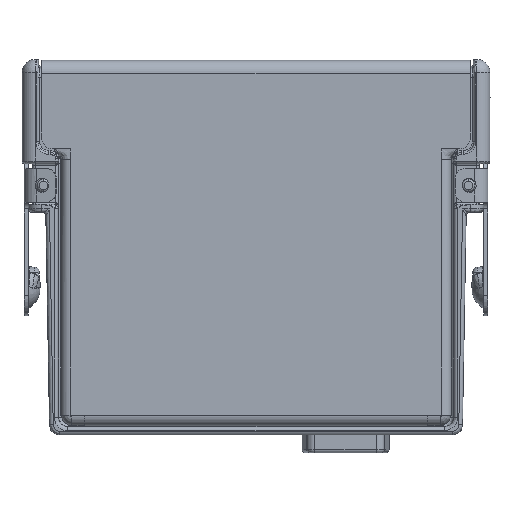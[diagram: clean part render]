
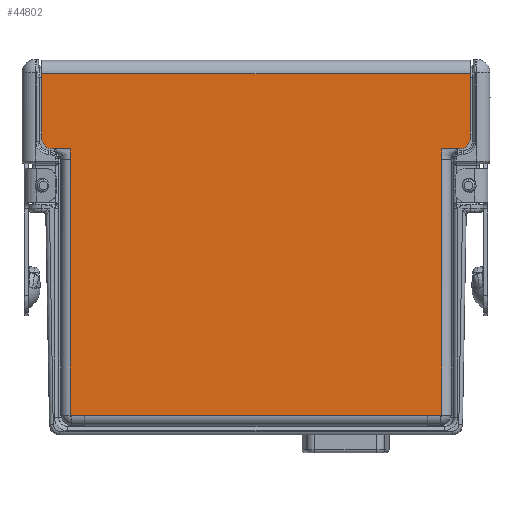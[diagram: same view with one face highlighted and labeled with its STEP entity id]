
A CAD part, left-side view. The second image highlights one B-rep face of the part: STEP entity #44802.
In plain terms, the highlighted planar face has unit normal (-1, 0, 0).
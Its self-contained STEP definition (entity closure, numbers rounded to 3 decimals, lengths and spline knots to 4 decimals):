
#15058=DIRECTION('',(0.,-1.,0.));
#15059=VECTOR('',#15058,2.543);
#15060=CARTESIAN_POINT('',(-0.4475,1.2715,0.146));
#15061=LINE('',#15060,#15059);
#15070=DIRECTION('',(0.,0.,-1.));
#15071=VECTOR('',#15070,0.476);
#15072=CARTESIAN_POINT('',(-0.4475,1.5895,2.676));
#15073=LINE('',#15072,#15071);
#15074=DIRECTION('',(0.,0.,1.));
#15075=VECTOR('',#15074,0.476);
#15076=CARTESIAN_POINT('',(-0.4475,-1.5895,2.2));
#15077=LINE('',#15076,#15075);
#15078=DIRECTION('',(0.,0.,1.));
#15079=VECTOR('',#15078,0.079);
#15080=CARTESIAN_POINT('',(-0.4475,-1.3765,2.041));
#15081=LINE('',#15080,#15079);
#15082=DIRECTION('',(0.,-1.,0.));
#15083=VECTOR('',#15082,0.105);
#15084=CARTESIAN_POINT('',(-0.4475,-1.2715,0.146));
#15085=LINE('',#15084,#15083);
#15086=DIRECTION('',(0.,-1.,0.));
#15087=VECTOR('',#15086,0.105);
#15088=CARTESIAN_POINT('',(-0.4475,1.3765,0.146));
#15089=LINE('',#15088,#15087);
#15090=DIRECTION('',(0.,0.,1.));
#15091=VECTOR('',#15090,0.079);
#15092=CARTESIAN_POINT('',(-0.4475,1.3765,2.041));
#15093=LINE('',#15092,#15091);
#15107=CARTESIAN_POINT('',(-0.4475,1.5095,2.2));
#15108=DIRECTION('',(-1.,0.,0.));
#15109=DIRECTION('',(0.,1.,0.));
#15110=AXIS2_PLACEMENT_3D('',#15107,#15108,#15109);
#15112=DIRECTION('',(0.,-1.,0.));
#15113=VECTOR('',#15112,0.133);
#15114=CARTESIAN_POINT('',(-0.4475,1.5095,2.12));
#15115=LINE('',#15114,#15113);
#15132=DIRECTION('',(0.,0.,1.));
#15133=VECTOR('',#15132,1.895);
#15134=CARTESIAN_POINT('',(-0.4475,1.3765,0.146));
#15135=LINE('',#15134,#15133);
#15587=DIRECTION('',(0.,0.,1.));
#15588=VECTOR('',#15587,1.895);
#15589=CARTESIAN_POINT('',(-0.4475,-1.3765,0.146));
#15590=LINE('',#15589,#15588);
#15622=DIRECTION('',(0.,-1.,0.));
#15623=VECTOR('',#15622,0.133);
#15624=CARTESIAN_POINT('',(-0.4475,-1.3765,2.12));
#15625=LINE('',#15624,#15623);
#15639=CARTESIAN_POINT('',(-0.4475,-1.5095,2.2));
#15640=DIRECTION('',(-1.,0.,0.));
#15641=DIRECTION('',(0.,0.,-1.));
#15642=AXIS2_PLACEMENT_3D('',#15639,#15640,#15641);
#15661=DIRECTION('',(0.,-1.,0.));
#15662=VECTOR('',#15661,3.179);
#15663=CARTESIAN_POINT('',(-0.4475,1.5895,2.676));
#15664=LINE('',#15663,#15662);
#24278=CARTESIAN_POINT('',(-0.4475,-1.5895,2.676));
#24279=VERTEX_POINT('',#24278);
#24280=CARTESIAN_POINT('',(-0.4475,1.5895,2.676));
#24281=VERTEX_POINT('',#24280);
#24310=CARTESIAN_POINT('',(-0.4475,1.2715,0.146));
#24311=CARTESIAN_POINT('',(-0.4475,-1.2715,0.146));
#24312=VERTEX_POINT('',#24310);
#24313=VERTEX_POINT('',#24311);
#24322=CARTESIAN_POINT('',(-0.4475,-1.3765,0.146));
#24323=VERTEX_POINT('',#24322);
#24334=CARTESIAN_POINT('',(-0.4475,1.3765,0.146));
#24335=VERTEX_POINT('',#24334);
#24383=CARTESIAN_POINT('',(-0.4475,1.5095,2.12));
#24385=VERTEX_POINT('',#24383);
#24388=CARTESIAN_POINT('',(-0.4475,1.5895,2.2));
#24389=VERTEX_POINT('',#24388);
#24391=CARTESIAN_POINT('',(-0.4475,-1.5895,2.2));
#24393=VERTEX_POINT('',#24391);
#24396=CARTESIAN_POINT('',(-0.4475,-1.5095,2.12));
#24397=VERTEX_POINT('',#24396);
#24410=CARTESIAN_POINT('',(-0.4475,-1.3765,2.041));
#24411=VERTEX_POINT('',#24410);
#24414=CARTESIAN_POINT('',(-0.4475,-1.3765,2.12));
#24415=VERTEX_POINT('',#24414);
#24422=CARTESIAN_POINT('',(-0.4475,1.3765,2.041));
#24423=CARTESIAN_POINT('',(-0.4475,1.3765,2.12));
#24424=VERTEX_POINT('',#24422);
#24425=VERTEX_POINT('',#24423);
#44769=CARTESIAN_POINT('',(-0.4475,0.,1.421));
#44770=DIRECTION('',(-1.,0.,0.));
#44771=DIRECTION('',(0.,1.,0.));
#44772=AXIS2_PLACEMENT_3D('',#44769,#44770,#44771);
#44773=PLANE('',#44772);
#44775=ORIENTED_EDGE('',*,*,#44774,.F.);
#44777=ORIENTED_EDGE('',*,*,#44776,.F.);
#44779=ORIENTED_EDGE('',*,*,#44778,.T.);
#44781=ORIENTED_EDGE('',*,*,#44780,.F.);
#44783=ORIENTED_EDGE('',*,*,#44782,.F.);
#44785=ORIENTED_EDGE('',*,*,#44784,.F.);
#44787=ORIENTED_EDGE('',*,*,#44786,.F.);
#44789=ORIENTED_EDGE('',*,*,#44788,.F.);
#44790=ORIENTED_EDGE('',*,*,#44759,.F.);
#44791=ORIENTED_EDGE('',*,*,#44735,.F.);
#44793=ORIENTED_EDGE('',*,*,#44792,.F.);
#44795=ORIENTED_EDGE('',*,*,#44794,.T.);
#44797=ORIENTED_EDGE('',*,*,#44796,.T.);
#44799=ORIENTED_EDGE('',*,*,#44798,.F.);
#44800=EDGE_LOOP('',(#44775,#44777,#44779,#44781,#44783,#44785,#44787,#44789,
#44790,#44791,#44793,#44795,#44797,#44799));
#44801=FACE_OUTER_BOUND('',#44800,.F.);
#44802=ADVANCED_FACE('',(#44801),#44773,.T.);
#15111=CIRCLE('',#15110,0.08);
#15643=CIRCLE('',#15642,0.08);
#44735=EDGE_CURVE('',#24312,#24313,#15061,.T.);
#44759=EDGE_CURVE('',#24313,#24323,#15085,.T.);
#44774=EDGE_CURVE('',#24389,#24385,#15111,.T.);
#44776=EDGE_CURVE('',#24281,#24389,#15073,.T.);
#44778=EDGE_CURVE('',#24281,#24279,#15664,.T.);
#44780=EDGE_CURVE('',#24393,#24279,#15077,.T.);
#44782=EDGE_CURVE('',#24397,#24393,#15643,.T.);
#44784=EDGE_CURVE('',#24415,#24397,#15625,.T.);
#44786=EDGE_CURVE('',#24411,#24415,#15081,.T.);
#44788=EDGE_CURVE('',#24323,#24411,#15590,.T.);
#44792=EDGE_CURVE('',#24335,#24312,#15089,.T.);
#44794=EDGE_CURVE('',#24335,#24424,#15135,.T.);
#44796=EDGE_CURVE('',#24424,#24425,#15093,.T.);
#44798=EDGE_CURVE('',#24385,#24425,#15115,.T.);
